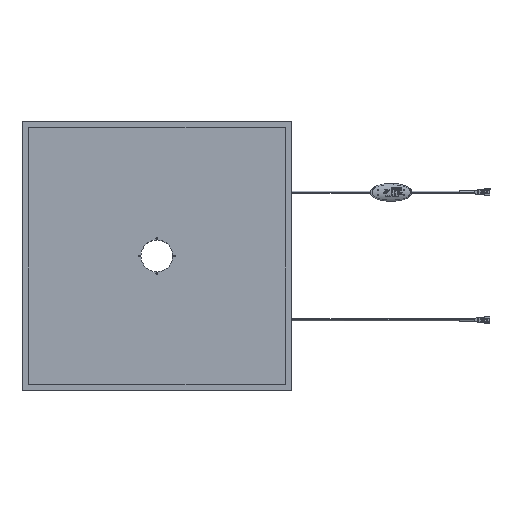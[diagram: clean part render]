
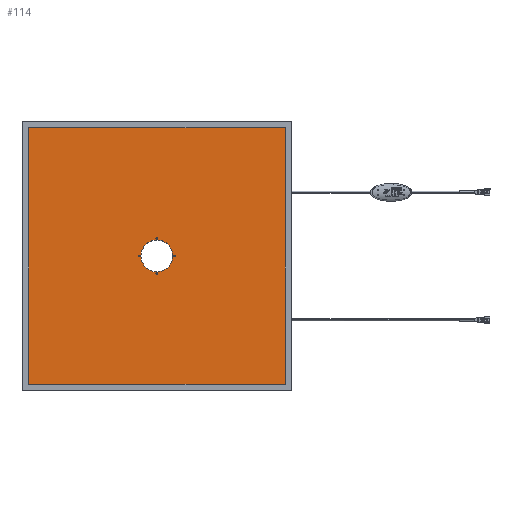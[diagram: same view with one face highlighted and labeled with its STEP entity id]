
A CAD part, top view. The second image highlights one B-rep face of the part: STEP entity #114.
In plain terms, the highlighted planar face has unit normal (0, 0, 1).
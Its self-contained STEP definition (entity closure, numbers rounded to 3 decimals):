
#20=CARTESIAN_POINT('',(566.702,366.702,34.5));
#21=DIRECTION('',(1.,0.,0.));
#22=DIRECTION('',(0.,0.,1.));
#23=AXIS2_PLACEMENT_3D('',#20,#22,#21);
#24=PLANE('',#23);
#25=CARTESIAN_POINT('',(769.702,569.702,34.5));
#26=VERTEX_POINT('',#25);
#27=CARTESIAN_POINT('',(769.702,163.702,34.5));
#28=VERTEX_POINT('',#27);
#29=CARTESIAN_POINT('',(769.702,569.702,34.5));
#30=DIRECTION('',(0.,-1.,0.));
#31=VECTOR('',#30,406.);
#32=LINE('',#29,#31);
#33=EDGE_CURVE('',#26,#28,#32,.T.);
#34=ORIENTED_EDGE('',*,*,#33,.F.);
#35=CARTESIAN_POINT('',(363.702,569.702,34.5));
#36=VERTEX_POINT('',#35);
#37=CARTESIAN_POINT('',(363.702,569.702,34.5));
#38=DIRECTION('',(1.,0.,0.));
#39=VECTOR('',#38,406.);
#40=LINE('',#37,#39);
#41=EDGE_CURVE('',#36,#26,#40,.T.);
#42=ORIENTED_EDGE('',*,*,#41,.F.);
#43=CARTESIAN_POINT('',(363.702,163.702,34.5));
#44=VERTEX_POINT('',#43);
#45=CARTESIAN_POINT('',(363.702,163.702,34.5));
#46=DIRECTION('',(0.,1.,0.));
#47=VECTOR('',#46,406.);
#48=LINE('',#45,#47);
#49=EDGE_CURVE('',#44,#36,#48,.T.);
#50=ORIENTED_EDGE('',*,*,#49,.F.);
#51=CARTESIAN_POINT('',(769.702,163.702,34.5));
#52=DIRECTION('',(-1.,0.,0.));
#53=VECTOR('',#52,406.);
#54=LINE('',#51,#53);
#55=EDGE_CURVE('',#28,#44,#54,.T.);
#56=ORIENTED_EDGE('',*,*,#55,.F.);
#57=EDGE_LOOP('',(#34,#42,#50,#56));
#58=FACE_OUTER_BOUND('',#57,.T.);
#59=CARTESIAN_POINT('',(591.702,366.702,34.5));
#60=VERTEX_POINT('',#59);
#61=CARTESIAN_POINT('',(566.702,366.702,34.5));
#62=DIRECTION('',(1.,0.,0.));
#63=DIRECTION('',(0.,0.,1.));
#64=AXIS2_PLACEMENT_3D('',#61,#63,#62);
#65=CIRCLE('',#64,25.);
#66=EDGE_CURVE('',#60,#60,#65,.T.);
#67=ORIENTED_EDGE('',*,*,#66,.F.);
#68=EDGE_LOOP('',(#67));
#69=FACE_BOUND('',#68,.T.);
#70=CARTESIAN_POINT('',(539.702,365.202,34.5));
#71=VERTEX_POINT('',#70);
#72=CARTESIAN_POINT('',(539.702,366.702,34.5));
#73=DIRECTION('',(0.,-1.,0.));
#74=DIRECTION('',(0.,0.,1.));
#75=AXIS2_PLACEMENT_3D('',#72,#74,#73);
#76=CIRCLE('',#75,1.5);
#77=EDGE_CURVE('',#71,#71,#76,.T.);
#78=ORIENTED_EDGE('',*,*,#77,.F.);
#79=EDGE_LOOP('',(#78));
#80=FACE_BOUND('',#79,.T.);
#81=CARTESIAN_POINT('',(593.702,365.202,34.5));
#82=VERTEX_POINT('',#81);
#83=CARTESIAN_POINT('',(593.702,366.702,34.5));
#84=DIRECTION('',(0.,-1.,0.));
#85=DIRECTION('',(0.,0.,1.));
#86=AXIS2_PLACEMENT_3D('',#83,#85,#84);
#87=CIRCLE('',#86,1.5);
#88=EDGE_CURVE('',#82,#82,#87,.T.);
#89=ORIENTED_EDGE('',*,*,#88,.F.);
#90=EDGE_LOOP('',(#89));
#91=FACE_BOUND('',#90,.T.);
#92=CARTESIAN_POINT('',(566.702,338.202,34.5));
#93=VERTEX_POINT('',#92);
#94=CARTESIAN_POINT('',(566.702,339.702,34.5));
#95=DIRECTION('',(0.,-1.,0.));
#96=DIRECTION('',(0.,0.,1.));
#97=AXIS2_PLACEMENT_3D('',#94,#96,#95);
#98=CIRCLE('',#97,1.5);
#99=EDGE_CURVE('',#93,#93,#98,.T.);
#100=ORIENTED_EDGE('',*,*,#99,.F.);
#101=EDGE_LOOP('',(#100));
#102=FACE_BOUND('',#101,.T.);
#103=CARTESIAN_POINT('',(566.702,392.202,34.5));
#104=VERTEX_POINT('',#103);
#105=CARTESIAN_POINT('',(566.702,393.702,34.5));
#106=DIRECTION('',(0.,-1.,0.));
#107=DIRECTION('',(0.,0.,1.));
#108=AXIS2_PLACEMENT_3D('',#105,#107,#106);
#109=CIRCLE('',#108,1.5);
#110=EDGE_CURVE('',#104,#104,#109,.T.);
#111=ORIENTED_EDGE('',*,*,#110,.F.);
#112=EDGE_LOOP('',(#111));
#113=FACE_BOUND('',#112,.T.);
#114=ADVANCED_FACE('',(#58,#69,#80,#91,#102,#113),#24,.T.);
